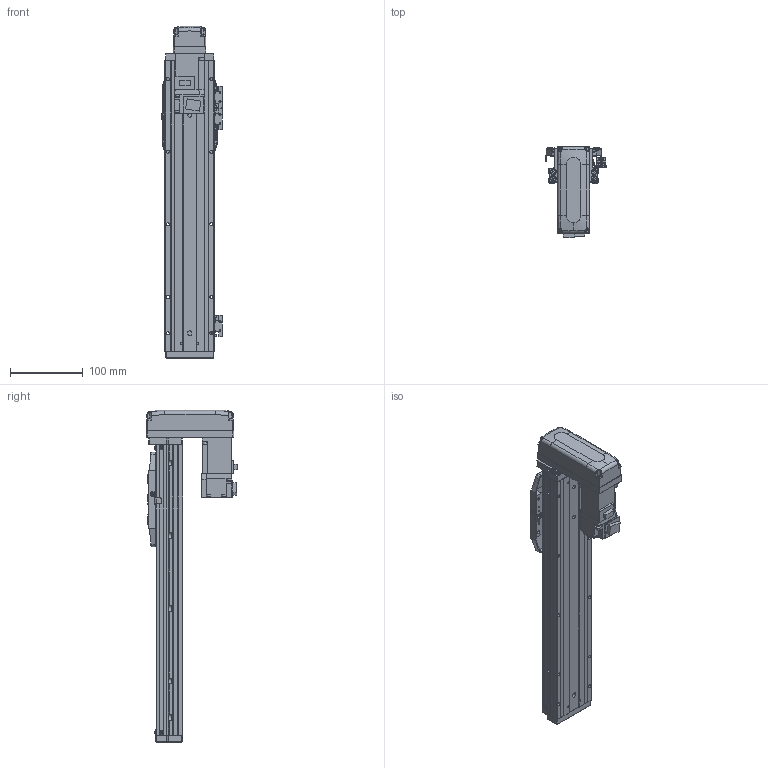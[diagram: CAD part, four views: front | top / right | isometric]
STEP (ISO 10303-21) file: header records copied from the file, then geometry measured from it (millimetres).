
FILE_DESCRIPTION (( 'STEP AP203' ), '1' );
FILE_NAME ('CTHA60-250-BM-M10-C4L.step', '2022-03-19T06:17:09', ( '微软用户' ), ( '微软中国' ), 'SwSTEP 2.0', 'SolidWorks 2020', '' );
FILE_SCHEMA (( 'CONFIG_CONTROL_DESIGN' ));
Length unit declared in the file: millimetre
Products named in the file (18): CTHA60-016; CTHA60-017; HG-KR13（三菱）; CTHA60-021; CTHA60-002; CTHA60-001_400; GBT 70.1-M4×16; CTHA60-031; CTHA60-004; GBT77-2000 M3×3; CTHA60-006-1; CTHA60-005; GBT 70.1-M3℅6; CTHA60-033; GB¨uT 70.2-M3¡Á6_M3¡Á6; GBT 70.3-M3℅6; CTHA60-250-BM-M10-C4L; EE_SX911P_R
Assembly tree (54 placements, depth 2):
  CTHA60-250-BM-M10-C4L
    CTHA60-001_400
    CTHA60-004
    CTHA60-005
    GB¨uT 70.2-M3¡Á6_M3¡Á6  x10
    EE_SX911P_R  x3
    CTHA60-017  x3
    CTHA60-021  x2
    GBT 70.1-M4×16  x10
    GBT77-2000 M3×3  x6
    GBT 70.1-M3℅6  x6
    GBT 70.3-M3℅6  x4
    CTHA60-016  x2
    HG-KR13（三菱）
    CTHA60-002
    CTHA60-031
    CTHA60-006-1
    CTHA60-033
Bounding box: 83.12 x 125.3 x 457 mm (x, y, z)
Volume: 906261.1 mm3; surface area: 287789 mm2
Topology: 56 solids, 56 shells, 2474 faces, 5925 edges, 3649 vertices
Faces by surface type: plane 1425, cylinder 565, cone 336, torus 92, bspline 32, sphere 24
Entity records: 43719 total; most frequent: CARTESIAN_POINT 8474, DIRECTION 6726, ORIENTED_EDGE 6658, EDGE_CURVE 3329, VECTOR 2358, LINE 2358, AXIS2_PLACEMENT_3D 2184, VERTEX_POINT 2108
